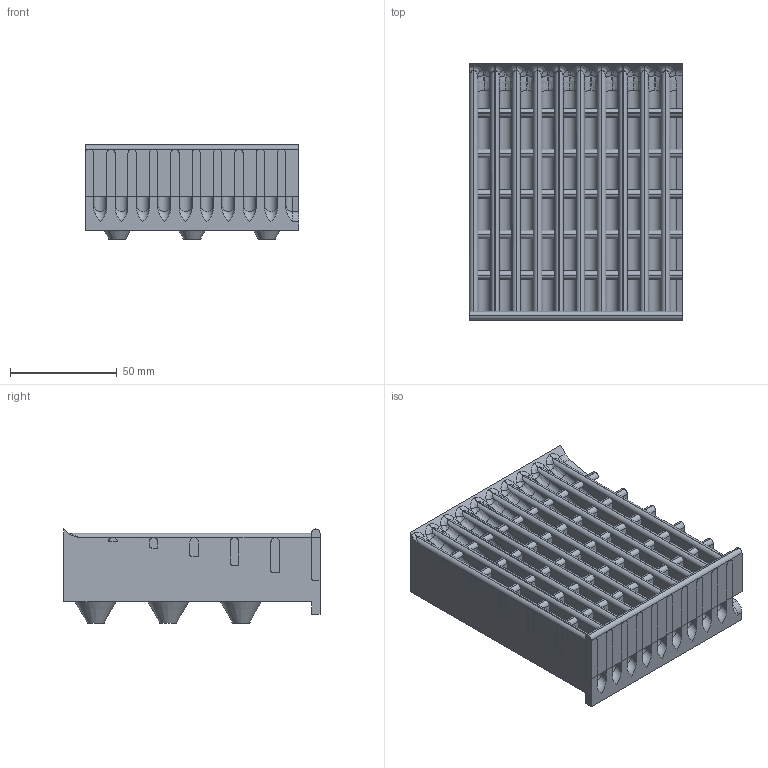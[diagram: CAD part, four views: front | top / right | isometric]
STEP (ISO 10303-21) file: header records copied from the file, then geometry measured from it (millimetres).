
FILE_DESCRIPTION(/* description */ ('STEP AP242','CAx-IF Rec.Pracs.---Representation and Presentation of Product Manufacturing Information (PMI)---4.0---2014-10-13','CAx-IF Rec.Pracs.---3D Tessellated Geometry---0.4---2014-09-14','2;1'),/* implementation_level */ '2;1');
FILE_NAME(/* name */ '66c9b40effaa4d41a46b3349',/* time_stamp */ '2024-08-24T10:21:03Z',/* author */ (''),/* organization */ (''),/* preprocessor_version */ 'ST-DEVELOPER v20',/* originating_system */ ' ',/* authorisation */ ' ');
FILE_SCHEMA (('AP242_MANAGED_MODEL_BASED_3D_ENGINEERING_MIM_LF { 1 0 10303 442 1 1 4 }'));
Length unit declared in the file: metre
Products named in the file (8): Part 2; Part 8; Part 7; Part 6; Part 5; Part 4; Part 3; Part 1
Bounding box: 100 x 120 x 44.07 mm (x, y, z)
Volume: 308943.7 mm3; surface area: 86992.8 mm2
Topology: 8 solids, 8 shells, 233 faces, 563 edges, 351 vertices
Faces by surface type: plane 89, cylinder 71, bspline 58, torus 10, cone 5
Entity records: 7492 total; most frequent: CARTESIAN_POINT 2036, DIRECTION 1118, ORIENTED_EDGE 1106, EDGE_CURVE 553, AXIS2_PLACEMENT_3D 440, VERTEX_POINT 346, EDGE_LOOP 243, FACE_BOUND 243
